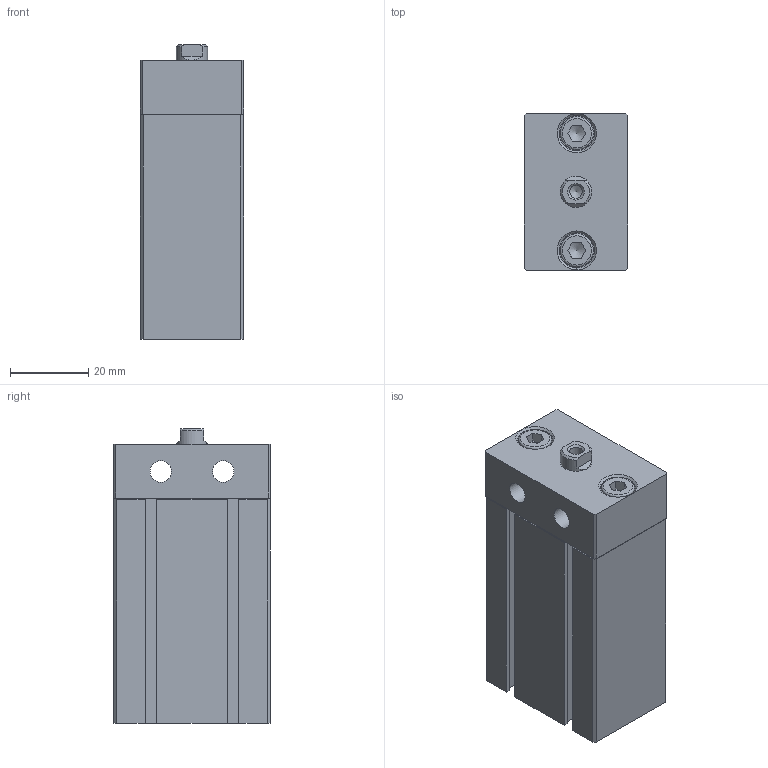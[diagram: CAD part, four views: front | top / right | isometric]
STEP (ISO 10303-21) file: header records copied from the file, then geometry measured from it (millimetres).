
FILE_DESCRIPTION((''),'2;1');
FILE_NAME('I:\3D電子目錄\氣缸\ND\ND\ND20\ND20x30.stp','2007-07-23T20:08:53',('Administrator'),(''),'Autodesk Inventor 11','Autodesk Inventor 11','');
FILE_SCHEMA(('AUTOMOTIVE_DESIGN { 1 0 10303 214 1 1 1 1 }'));
Length unit declared in the file: millimetre
Products named in the file (4): ND20; R 形環 22; ISO 4762 M5 x 10
Assembly tree (4 placements, depth 2):
  ND20
    ND20
    R 形環 22
    ISO 4762 M5 x 10  x2
Bounding box: 26.4 x 40.1 x 75.5 mm (x, y, z)
Volume: 67311.3 mm3; surface area: 18539.5 mm2
Topology: 5 solids, 5 shells, 160 faces, 400 edges, 257 vertices
Faces by surface type: plane 101, cylinder 26, bspline 16, cone 14, torus 3
Full cylindrical faces by diameter (mm): 1.5 x4, 5 x2, 5.5 x2, 8.5 x2, 9 x2, 13 x1, 21 x1
Entity records: 4401 total; most frequent: CARTESIAN_POINT 948, DIRECTION 676, ORIENTED_EDGE 654, EDGE_CURVE 327, VECTOR 234, LINE 234, VERTEX_POINT 231, AXIS2_PLACEMENT_3D 221
